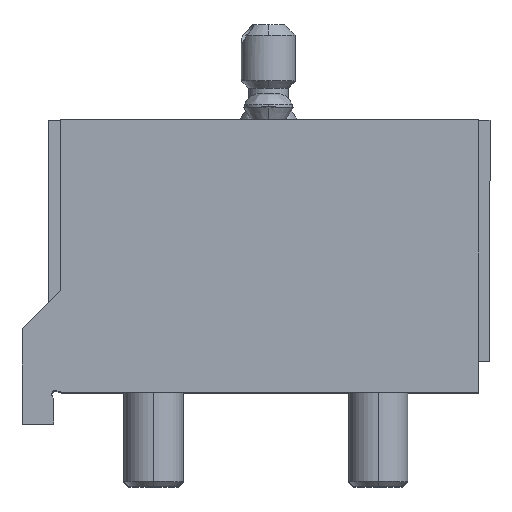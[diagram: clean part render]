
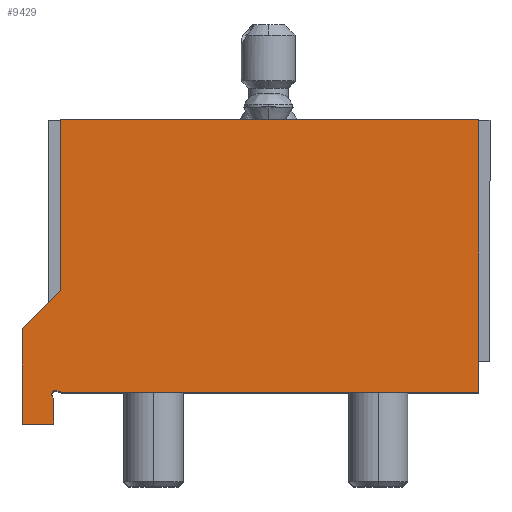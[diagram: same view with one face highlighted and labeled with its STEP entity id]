
A CAD part, top view. The second image highlights one B-rep face of the part: STEP entity #9429.
In plain terms, the highlighted planar face has unit normal (0, 0, -1).
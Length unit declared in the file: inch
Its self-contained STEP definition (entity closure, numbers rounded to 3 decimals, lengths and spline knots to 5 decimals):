
#97 = LINE ( 'NONE', #11008, #1601 ) ;
#228 = VERTEX_POINT ( 'NONE', #7163 ) ;
#333 = EDGE_CURVE ( 'NONE', #10721, #12482, #7888, .T. ) ;
#419 = CARTESIAN_POINT ( 'NONE',  ( 3.35, 0., 2. ) ) ;
#634 = VERTEX_POINT ( 'NONE', #12234 ) ;
#1019 = LINE ( 'NONE', #7776, #9515 ) ;
#1467 = VECTOR ( 'NONE', #8319, 39.37008 ) ;
#1601 = VECTOR ( 'NONE', #4510, 39.37008 ) ;
#1633 = DIRECTION ( 'NONE',  ( 1., 0., 0. ) ) ;
#1634 = CARTESIAN_POINT ( 'NONE',  ( 0.015, -0.015, 2. ) ) ;
#1726 = EDGE_CURVE ( 'NONE', #12482, #6406, #1019, .T. ) ;
#1894 = CARTESIAN_POINT ( 'NONE',  ( 0., 0., 2. ) ) ;
#1918 = DIRECTION ( 'NONE',  ( -0.707, -0.707, 0. ) ) ;
#2366 = CARTESIAN_POINT ( 'NONE',  ( 0.05, 0., 2. ) ) ;
#2402 = LINE ( 'NONE', #7203, #8935 ) ;
#2470 = VERTEX_POINT ( 'NONE', #4788 ) ;
#2632 = EDGE_CURVE ( 'NONE', #3297, #2470, #12476, .T. ) ;
#2715 = EDGE_CURVE ( 'NONE', #8495, #4322, #12712, .T. ) ;
#2748 = DIRECTION ( 'NONE',  ( 1., 0., 0. ) ) ;
#3297 = VERTEX_POINT ( 'NONE', #5623 ) ;
#3694 = ORIENTED_EDGE ( 'NONE', *, *, #6977, .F. ) ;
#3697 = EDGE_CURVE ( 'NONE', #228, #12167, #12577, .T. ) ;
#3920 = LINE ( 'NONE', #1894, #6327 ) ;
#4030 = ORIENTED_EDGE ( 'NONE', *, *, #7587, .T. ) ;
#4088 = LINE ( 'NONE', #8735, #8251 ) ;
#4109 = CARTESIAN_POINT ( 'NONE',  ( 3.35, -0.25, 2. ) ) ;
#4322 = VERTEX_POINT ( 'NONE', #9186 ) ;
#4480 = ORIENTED_EDGE ( 'NONE', *, *, #5032, .F. ) ;
#4510 = DIRECTION ( 'NONE',  ( 1., 0., 0. ) ) ;
#4788 = CARTESIAN_POINT ( 'NONE',  ( 0.05, 0.8, 2. ) ) ;
#5032 = EDGE_CURVE ( 'NONE', #4322, #634, #3920, .T. ) ;
#5378 = CARTESIAN_POINT ( 'NONE',  ( 0.0615, 0., 2. ) ) ;
#5609 = VECTOR ( 'NONE', #2748, 39.37008 ) ;
#5623 = CARTESIAN_POINT ( 'NONE',  ( 0.05, 2.15, 2. ) ) ;
#5736 = ORIENTED_EDGE ( 'NONE', *, *, #8561, .F. ) ;
#5739 = ORIENTED_EDGE ( 'NONE', *, *, #2632, .F. ) ;
#5842 = VECTOR ( 'NONE', #12262, 39.37008 ) ;
#5931 = VECTOR ( 'NONE', #9326, 39.37008 ) ;
#5973 = DIRECTION ( 'NONE',  ( 1., 0., 0. ) ) ;
#6327 = VECTOR ( 'NONE', #8337, 39.37008 ) ;
#6358 = EDGE_LOOP ( 'NONE', ( #9346, #3694, #11984, #5739, #7424, #12984, #4030, #12410, #10061, #5736, #4480 ) ) ;
#6406 = VERTEX_POINT ( 'NONE', #5378 ) ;
#6977 = EDGE_CURVE ( 'NONE', #12056, #8495, #2402, .T. ) ;
#7151 = CARTESIAN_POINT ( 'NONE',  ( 3.35, 0., 2. ) ) ;
#7163 = CARTESIAN_POINT ( 'NONE',  ( 3.35, 2.15, 2. ) ) ;
#7203 = CARTESIAN_POINT ( 'NONE',  ( -0.25, 0., 2. ) ) ;
#7289 = DIRECTION ( 'NONE',  ( 0., 0., -1. ) ) ;
#7424 = ORIENTED_EDGE ( 'NONE', *, *, #11471, .T. ) ;
#7577 = VECTOR ( 'NONE', #8136, 39.37008 ) ;
#7587 = EDGE_CURVE ( 'NONE', #12167, #6406, #12708, .T. ) ;
#7776 = CARTESIAN_POINT ( 'NONE',  ( 0.02526, 0.01319, 2. ) ) ;
#7888 = CIRCLE ( 'NONE', #10403, 0.03 ) ;
#8136 = DIRECTION ( 'NONE',  ( -0.574, 0.819, 0. ) ) ;
#8251 = VECTOR ( 'NONE', #1918, 39.37008 ) ;
#8319 = DIRECTION ( 'NONE',  ( 0., -1., 0. ) ) ;
#8328 = EDGE_CURVE ( 'NONE', #2470, #12056, #4088, .T. ) ;
#8337 = DIRECTION ( 'NONE',  ( 0., 1., 0. ) ) ;
#8495 = VERTEX_POINT ( 'NONE', #8877 ) ;
#8561 = EDGE_CURVE ( 'NONE', #634, #10721, #10364, .T. ) ;
#8629 = CARTESIAN_POINT ( 'NONE',  ( -0.00957, -0.03221, 2. ) ) ;
#8735 = CARTESIAN_POINT ( 'NONE',  ( 0.05, 0.8, 2. ) ) ;
#8877 = CARTESIAN_POINT ( 'NONE',  ( -0.25, -0.25, 2. ) ) ;
#8935 = VECTOR ( 'NONE', #13380, 39.37008 ) ;
#8996 = CARTESIAN_POINT ( 'NONE',  ( -0.25, 0.5, 2. ) ) ;
#9186 = CARTESIAN_POINT ( 'NONE',  ( 0., -0.25, 2. ) ) ;
#9326 = DIRECTION ( 'NONE',  ( -1., 0., 0. ) ) ;
#9346 = ORIENTED_EDGE ( 'NONE', *, *, #2715, .F. ) ;
#9429 = ADVANCED_FACE ( 'NONE', ( #11689 ), #9462, .F. ) ;
#9462 = PLANE ( 'NONE',  #12885 ) ;
#9515 = VECTOR ( 'NONE', #13460, 39.37008 ) ;
#10061 = ORIENTED_EDGE ( 'NONE', *, *, #333, .F. ) ;
#10364 = LINE ( 'NONE', #13906, #7577 ) ;
#10403 = AXIS2_PLACEMENT_3D ( 'NONE', #1634, #7289, #5973 ) ;
#10595 = DIRECTION ( 'NONE',  ( 0., 0., 1. ) ) ;
#10721 = VERTEX_POINT ( 'NONE', #8629 ) ;
#11008 = CARTESIAN_POINT ( 'NONE',  ( -0.25, 2.15, 2. ) ) ;
#11471 = EDGE_CURVE ( 'NONE', #3297, #228, #97, .T. ) ;
#11567 = CARTESIAN_POINT ( 'NONE',  ( 3.35, 2.15, 2. ) ) ;
#11689 = FACE_OUTER_BOUND ( 'NONE', #6358, .T. ) ;
#11984 = ORIENTED_EDGE ( 'NONE', *, *, #8328, .F. ) ;
#12056 = VERTEX_POINT ( 'NONE', #8996 ) ;
#12167 = VERTEX_POINT ( 'NONE', #419 ) ;
#12234 = CARTESIAN_POINT ( 'NONE',  ( 0., -0.04588, 2. ) ) ;
#12262 = DIRECTION ( 'NONE',  ( 0., -1., 0. ) ) ;
#12410 = ORIENTED_EDGE ( 'NONE', *, *, #1726, .F. ) ;
#12476 = LINE ( 'NONE', #2366, #5842 ) ;
#12482 = VERTEX_POINT ( 'NONE', #13294 ) ;
#12577 = LINE ( 'NONE', #11567, #1467 ) ;
#12708 = LINE ( 'NONE', #7151, #5931 ) ;
#12712 = LINE ( 'NONE', #4109, #5609 ) ;
#12885 = AXIS2_PLACEMENT_3D ( 'NONE', #13709, #10595, #1633 ) ;
#12984 = ORIENTED_EDGE ( 'NONE', *, *, #3697, .T. ) ;
#13294 = CARTESIAN_POINT ( 'NONE',  ( 0.02526, 0.01319, 2. ) ) ;
#13380 = DIRECTION ( 'NONE',  ( 0., -1., 0. ) ) ;
#13460 = DIRECTION ( 'NONE',  ( 0.94, -0.342, 0. ) ) ;
#13709 = CARTESIAN_POINT ( 'NONE',  ( 3.35, 0., 2. ) ) ;
#13906 = CARTESIAN_POINT ( 'NONE',  ( -0.00957, -0.03221, 2. ) ) ;
